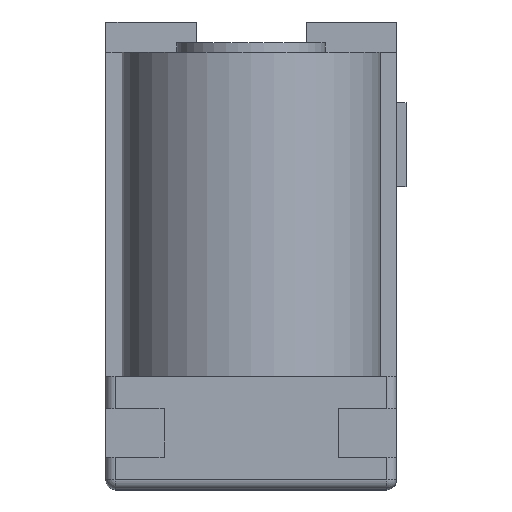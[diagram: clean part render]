
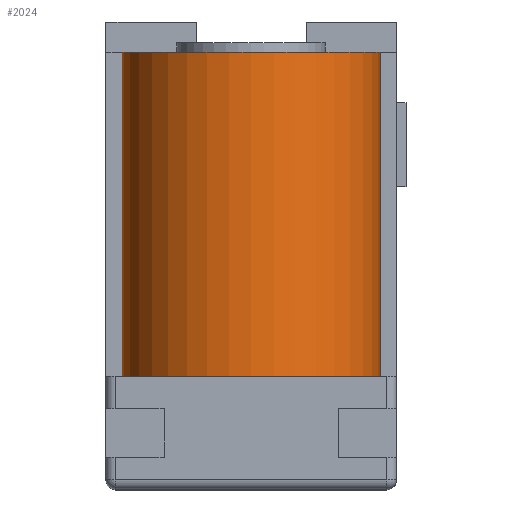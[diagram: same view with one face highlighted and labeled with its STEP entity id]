
A CAD part, top view. The second image highlights one B-rep face of the part: STEP entity #2024.
In plain terms, the highlighted cylindrical face has radius 4 mm (diameter 8 mm), a partial arc.
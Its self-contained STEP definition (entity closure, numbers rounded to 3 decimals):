
#311 = PLANE('',#312);
#312 = AXIS2_PLACEMENT_3D('',#313,#314,#315);
#313 = CARTESIAN_POINT('',(0.,13.55,6.436));
#314 = DIRECTION('',(0.,1.,0.));
#315 = DIRECTION('',(-1.,0.,0.));
#1453 = VERTEX_POINT('',#1454);
#1454 = CARTESIAN_POINT('',(-4.,13.55,6.436));
#1468 = PLANE('',#1469);
#1469 = AXIS2_PLACEMENT_3D('',#1470,#1471,#1472);
#1470 = CARTESIAN_POINT('',(-4.5,14.5,6.436));
#1471 = DIRECTION('',(0.,0.,-1.));
#1472 = DIRECTION('',(0.,1.,0.));
#1480 = EDGE_CURVE('',#1453,#1481,#1483,.T.);
#1481 = VERTEX_POINT('',#1482);
#1482 = CARTESIAN_POINT('',(4.,13.55,6.436));
#1483 = SURFACE_CURVE('',#1484,(#1489,#1496),.PCURVE_S1.);
#1484 = CIRCLE('',#1485,4.);
#1485 = AXIS2_PLACEMENT_3D('',#1486,#1487,#1488);
#1486 = CARTESIAN_POINT('',(0.,13.55,6.436));
#1487 = DIRECTION('',(0.,1.,0.));
#1488 = DIRECTION('',(-1.,0.,0.));
#1489 = PCURVE('',#311,#1490);
#1490 = DEFINITIONAL_REPRESENTATION('',(#1491),#1495);
#1491 = CIRCLE('',#1492,4.);
#1492 = AXIS2_PLACEMENT_2D('',#1493,#1494);
#1493 = CARTESIAN_POINT('',(0.,0.));
#1494 = DIRECTION('',(1.,0.));
#1495 = ( GEOMETRIC_REPRESENTATION_CONTEXT(2) 
PARAMETRIC_REPRESENTATION_CONTEXT() REPRESENTATION_CONTEXT('2D SPACE',''
  ) );
#1496 = PCURVE('',#1497,#1502);
#1497 = CYLINDRICAL_SURFACE('',#1498,4.);
#1498 = AXIS2_PLACEMENT_3D('',#1499,#1500,#1501);
#1499 = CARTESIAN_POINT('',(0.,-7.814,6.436)
  );
#1500 = DIRECTION('',(0.,1.,0.));
#1501 = DIRECTION('',(-1.,0.,0.));
#1502 = DEFINITIONAL_REPRESENTATION('',(#1503),#1507);
#1503 = LINE('',#1504,#1505);
#1504 = CARTESIAN_POINT('',(0.,21.364));
#1505 = VECTOR('',#1506,1.);
#1506 = DIRECTION('',(1.,0.));
#1507 = ( GEOMETRIC_REPRESENTATION_CONTEXT(2) 
PARAMETRIC_REPRESENTATION_CONTEXT() REPRESENTATION_CONTEXT('2D SPACE',''
  ) );
#1525 = PLANE('',#1526);
#1526 = AXIS2_PLACEMENT_3D('',#1527,#1528,#1529);
#1527 = CARTESIAN_POINT('',(-4.5,14.5,6.436));
#1528 = DIRECTION('',(0.,0.,-1.));
#1529 = DIRECTION('',(0.,1.,0.));
#1906 = VERTEX_POINT('',#1907);
#1907 = CARTESIAN_POINT('',(-4.,3.5,6.436));
#1921 = PLANE('',#1922);
#1922 = AXIS2_PLACEMENT_3D('',#1923,#1924,#1925);
#1923 = CARTESIAN_POINT('',(-4.5,3.5,11.036));
#1924 = DIRECTION('',(0.,-1.,0.));
#1925 = DIRECTION('',(1.,0.,0.));
#1933 = EDGE_CURVE('',#1906,#1453,#1934,.T.);
#1934 = SURFACE_CURVE('',#1935,(#1939,#1946),.PCURVE_S1.);
#1935 = LINE('',#1936,#1937);
#1936 = CARTESIAN_POINT('',(-4.,-7.814,6.436));
#1937 = VECTOR('',#1938,1.);
#1938 = DIRECTION('',(0.,1.,0.));
#1939 = PCURVE('',#1468,#1940);
#1940 = DEFINITIONAL_REPRESENTATION('',(#1941),#1945);
#1941 = LINE('',#1942,#1943);
#1942 = CARTESIAN_POINT('',(-22.314,0.5));
#1943 = VECTOR('',#1944,1.);
#1944 = DIRECTION('',(1.,0.));
#1945 = ( GEOMETRIC_REPRESENTATION_CONTEXT(2) 
PARAMETRIC_REPRESENTATION_CONTEXT() REPRESENTATION_CONTEXT('2D SPACE',''
  ) );
#1946 = PCURVE('',#1497,#1947);
#1947 = DEFINITIONAL_REPRESENTATION('',(#1948),#1952);
#1948 = LINE('',#1949,#1950);
#1949 = CARTESIAN_POINT('',(0.,0.));
#1950 = VECTOR('',#1951,1.);
#1951 = DIRECTION('',(0.,1.));
#1952 = ( GEOMETRIC_REPRESENTATION_CONTEXT(2) 
PARAMETRIC_REPRESENTATION_CONTEXT() REPRESENTATION_CONTEXT('2D SPACE',''
  ) );
#1958 = EDGE_CURVE('',#1481,#1959,#1961,.T.);
#1959 = VERTEX_POINT('',#1960);
#1960 = CARTESIAN_POINT('',(4.,3.5,6.436));
#1961 = SURFACE_CURVE('',#1962,(#1966,#1973),.PCURVE_S1.);
#1962 = LINE('',#1963,#1964);
#1963 = CARTESIAN_POINT('',(4.,-7.814,6.436));
#1964 = VECTOR('',#1965,1.);
#1965 = DIRECTION('',(0.,-1.,0.));
#1966 = PCURVE('',#1525,#1967);
#1967 = DEFINITIONAL_REPRESENTATION('',(#1968),#1972);
#1968 = LINE('',#1969,#1970);
#1969 = CARTESIAN_POINT('',(-22.314,8.5));
#1970 = VECTOR('',#1971,1.);
#1971 = DIRECTION('',(-1.,0.));
#1972 = ( GEOMETRIC_REPRESENTATION_CONTEXT(2) 
PARAMETRIC_REPRESENTATION_CONTEXT() REPRESENTATION_CONTEXT('2D SPACE',''
  ) );
#1973 = PCURVE('',#1497,#1974);
#1974 = DEFINITIONAL_REPRESENTATION('',(#1975),#1979);
#1975 = LINE('',#1976,#1977);
#1976 = CARTESIAN_POINT('',(3.142,0.));
#1977 = VECTOR('',#1978,1.);
#1978 = DIRECTION('',(0.,-1.));
#1979 = ( GEOMETRIC_REPRESENTATION_CONTEXT(2) 
PARAMETRIC_REPRESENTATION_CONTEXT() REPRESENTATION_CONTEXT('2D SPACE',''
  ) );
#2024 = ADVANCED_FACE('',(#2025),#1497,.T.);
#2025 = FACE_BOUND('',#2026,.T.);
#2026 = EDGE_LOOP('',(#2027,#2028,#2029,#2030));
#2027 = ORIENTED_EDGE('',*,*,#1958,.F.);
#2028 = ORIENTED_EDGE('',*,*,#1480,.F.);
#2029 = ORIENTED_EDGE('',*,*,#1933,.F.);
#2030 = ORIENTED_EDGE('',*,*,#2031,.F.);
#2031 = EDGE_CURVE('',#1959,#1906,#2032,.T.);
#2032 = SURFACE_CURVE('',#2033,(#2038,#2045),.PCURVE_S1.);
#2033 = CIRCLE('',#2034,4.);
#2034 = AXIS2_PLACEMENT_3D('',#2035,#2036,#2037);
#2035 = CARTESIAN_POINT('',(0.,3.5,6.436));
#2036 = DIRECTION('',(0.,-1.,0.));
#2037 = DIRECTION('',(1.,0.,0.));
#2038 = PCURVE('',#1497,#2039);
#2039 = DEFINITIONAL_REPRESENTATION('',(#2040),#2044);
#2040 = LINE('',#2041,#2042);
#2041 = CARTESIAN_POINT('',(3.142,11.314));
#2042 = VECTOR('',#2043,1.);
#2043 = DIRECTION('',(-1.,0.));
#2044 = ( GEOMETRIC_REPRESENTATION_CONTEXT(2) 
PARAMETRIC_REPRESENTATION_CONTEXT() REPRESENTATION_CONTEXT('2D SPACE',''
  ) );
#2045 = PCURVE('',#1921,#2046);
#2046 = DEFINITIONAL_REPRESENTATION('',(#2047),#2051);
#2047 = CIRCLE('',#2048,4.);
#2048 = AXIS2_PLACEMENT_2D('',#2049,#2050);
#2049 = CARTESIAN_POINT('',(4.5,-4.6));
#2050 = DIRECTION('',(1.,0.));
#2051 = ( GEOMETRIC_REPRESENTATION_CONTEXT(2) 
PARAMETRIC_REPRESENTATION_CONTEXT() REPRESENTATION_CONTEXT('2D SPACE',''
  ) );
